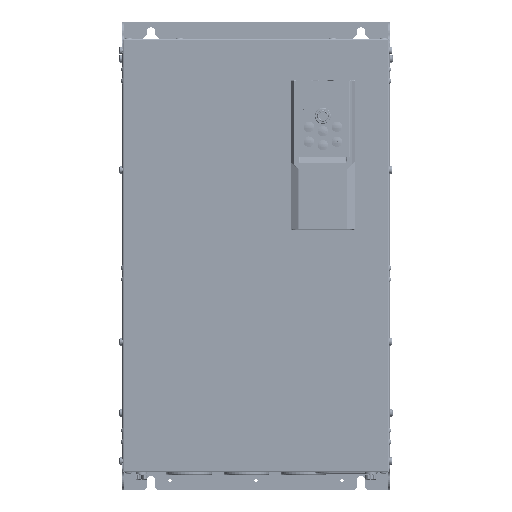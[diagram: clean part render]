
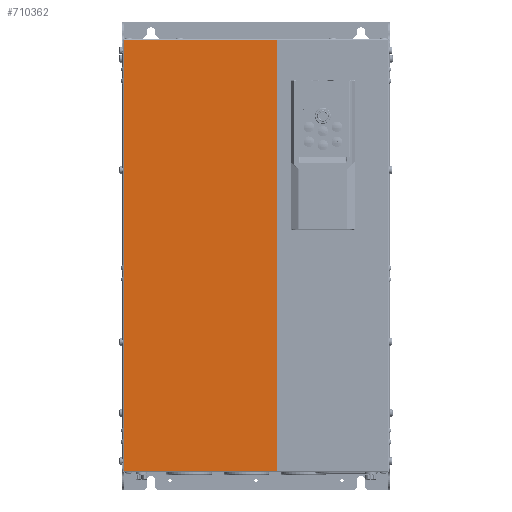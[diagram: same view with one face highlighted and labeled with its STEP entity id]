
A CAD part, top view. The second image highlights one B-rep face of the part: STEP entity #710362.
In plain terms, the highlighted planar face has unit normal (0, 0, 1).
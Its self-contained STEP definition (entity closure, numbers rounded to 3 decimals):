
#708644=DIRECTION('',(0.,-1.,0.));
#708645=VECTOR('',#708644,451.);
#708646=CARTESIAN_POINT('',(22.,450.5,145.5));
#708647=LINE('',#708646,#708645);
#708651=DIRECTION('',(-1.,0.,0.));
#708652=VECTOR('',#708651,160.);
#708653=CARTESIAN_POINT('',(22.,-0.5,145.5));
#708654=LINE('',#708653,#708652);
#708658=DIRECTION('',(-1.,0.,0.));
#708659=VECTOR('',#708658,160.);
#708660=CARTESIAN_POINT('',(22.,450.5,145.5));
#708661=LINE('',#708660,#708659);
#708701=DIRECTION('',(0.,1.,0.));
#708702=VECTOR('',#708701,451.);
#708703=CARTESIAN_POINT('',(-138.,-0.5,145.5));
#708704=LINE('',#708703,#708702);
#709894=CARTESIAN_POINT('',(22.,450.5,145.5));
#709895=CARTESIAN_POINT('',(22.,-0.5,145.5));
#709896=VERTEX_POINT('',#709894);
#709897=VERTEX_POINT('',#709895);
#710054=CARTESIAN_POINT('',(-138.,450.5,145.5));
#710055=VERTEX_POINT('',#710054);
#710059=CARTESIAN_POINT('',(-138.,-0.5,145.5));
#710061=VERTEX_POINT('',#710059);
#710350=CARTESIAN_POINT('',(-139.5,452.,145.5));
#710351=DIRECTION('',(0.,0.,1.));
#710352=DIRECTION('',(0.,-1.,0.));
#710353=AXIS2_PLACEMENT_3D('',#710350,#710351,#710352);
#710354=PLANE('',#710353);
#710355=ORIENTED_EDGE('',*,*,#710342,.T.);
#710356=ORIENTED_EDGE('',*,*,#710270,.T.);
#710358=ORIENTED_EDGE('',*,*,#710357,.T.);
#710359=ORIENTED_EDGE('',*,*,#710322,.F.);
#710360=EDGE_LOOP('',(#710355,#710356,#710358,#710359));
#710361=FACE_OUTER_BOUND('',#710360,.F.);
#710362=ADVANCED_FACE('',(#710361),#710354,.T.);
#710270=EDGE_CURVE('',#709897,#710061,#708654,.T.);
#710322=EDGE_CURVE('',#709896,#710055,#708661,.T.);
#710342=EDGE_CURVE('',#709896,#709897,#708647,.T.);
#710357=EDGE_CURVE('',#710061,#710055,#708704,.T.);
